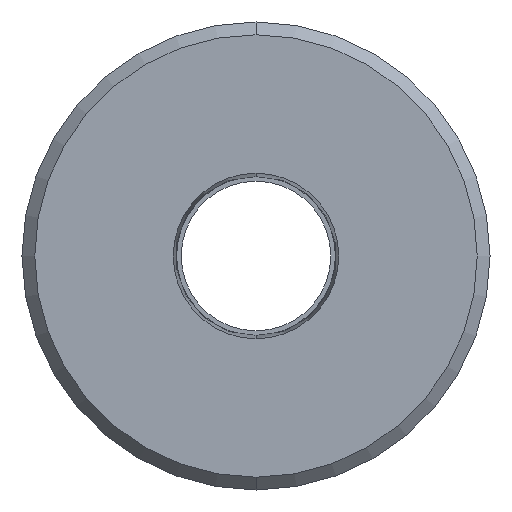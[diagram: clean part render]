
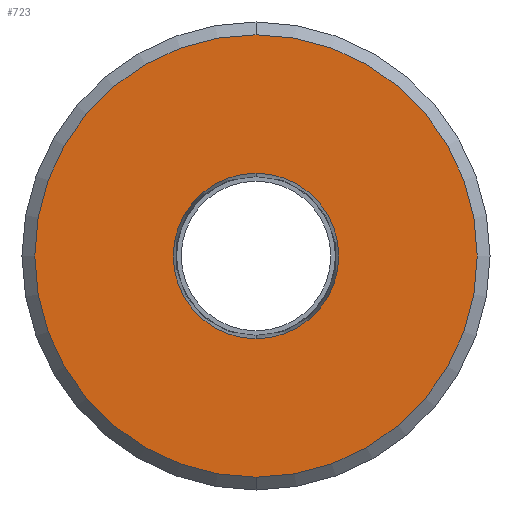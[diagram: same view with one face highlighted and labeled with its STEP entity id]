
A CAD part, front view. The second image highlights one B-rep face of the part: STEP entity #723.
In plain terms, the highlighted planar face has unit normal (0, -1, 0).
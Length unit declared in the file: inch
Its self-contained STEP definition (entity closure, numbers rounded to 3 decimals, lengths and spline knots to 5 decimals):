
#4 = CIRCLE ( 'NONE', #367, 1.04 ) ;
#60 = DIRECTION ( 'NONE',  ( 0., -1., 0. ) ) ;
#113 = VERTEX_POINT ( 'NONE', #146 ) ;
#141 = CARTESIAN_POINT ( 'NONE',  ( 0., 0., 0. ) ) ;
#146 = CARTESIAN_POINT ( 'NONE',  ( 0., 0., -1.04 ) ) ;
#167 = EDGE_LOOP ( 'NONE', ( #698, #184 ) ) ;
#171 = ORIENTED_EDGE ( 'NONE', *, *, #559, .F. ) ;
#184 = ORIENTED_EDGE ( 'NONE', *, *, #769, .T. ) ;
#215 = DIRECTION ( 'NONE',  ( 0., 0., 1. ) ) ;
#216 = AXIS2_PLACEMENT_3D ( 'NONE', #362, #848, #433 ) ;
#247 = AXIS2_PLACEMENT_3D ( 'NONE', #491, #60, #556 ) ;
#266 = AXIS2_PLACEMENT_3D ( 'NONE', #752, #342, #828 ) ;
#269 = PLANE ( 'NONE',  #266 ) ;
#320 = CIRCLE ( 'NONE', #247, 0.38909 ) ;
#342 = DIRECTION ( 'NONE',  ( 0., 1., 0. ) ) ;
#362 = CARTESIAN_POINT ( 'NONE',  ( 0., 0., 0. ) ) ;
#363 = CIRCLE ( 'NONE', #364, 0.38909 ) ;
#364 = AXIS2_PLACEMENT_3D ( 'NONE', #365, #849, #435 ) ;
#365 = CARTESIAN_POINT ( 'NONE',  ( 0., 0., 0. ) ) ;
#367 = AXIS2_PLACEMENT_3D ( 'NONE', #141, #636, #215 ) ;
#406 = ORIENTED_EDGE ( 'NONE', *, *, #745, .F. ) ;
#433 = DIRECTION ( 'NONE',  ( 0., 0., 1. ) ) ;
#435 = DIRECTION ( 'NONE',  ( 0., 0., -1. ) ) ;
#491 = CARTESIAN_POINT ( 'NONE',  ( 0., 0., 0. ) ) ;
#523 = FACE_BOUND ( 'NONE', #807, .T. ) ;
#543 = FACE_OUTER_BOUND ( 'NONE', #167, .T. ) ;
#555 = EDGE_CURVE ( 'NONE', #893, #113, #4, .T. ) ;
#556 = DIRECTION ( 'NONE',  ( 0., 0., -1. ) ) ;
#559 = EDGE_CURVE ( 'NONE', #742, #680, #363, .T. ) ;
#566 = CARTESIAN_POINT ( 'NONE',  ( 0., 0., 1.04 ) ) ;
#636 = DIRECTION ( 'NONE',  ( 0., -1., 0. ) ) ;
#638 = CIRCLE ( 'NONE', #216, 1.04 ) ;
#644 = CARTESIAN_POINT ( 'NONE',  ( 0., 0., 0.38909 ) ) ;
#680 = VERTEX_POINT ( 'NONE', #644 ) ;
#686 = CARTESIAN_POINT ( 'NONE',  ( 0., 0., -0.38909 ) ) ;
#698 = ORIENTED_EDGE ( 'NONE', *, *, #555, .T. ) ;
#723 = ADVANCED_FACE ( 'NONE', ( #543, #523 ), #269, .F. ) ;
#742 = VERTEX_POINT ( 'NONE', #686 ) ;
#745 = EDGE_CURVE ( 'NONE', #680, #742, #320, .T. ) ;
#752 = CARTESIAN_POINT ( 'NONE',  ( 0., 0., 0. ) ) ;
#769 = EDGE_CURVE ( 'NONE', #113, #893, #638, .T. ) ;
#807 = EDGE_LOOP ( 'NONE', ( #171, #406 ) ) ;
#828 = DIRECTION ( 'NONE',  ( 0., 0., 1. ) ) ;
#848 = DIRECTION ( 'NONE',  ( 0., -1., 0. ) ) ;
#849 = DIRECTION ( 'NONE',  ( 0., -1., 0. ) ) ;
#893 = VERTEX_POINT ( 'NONE', #566 ) ;
